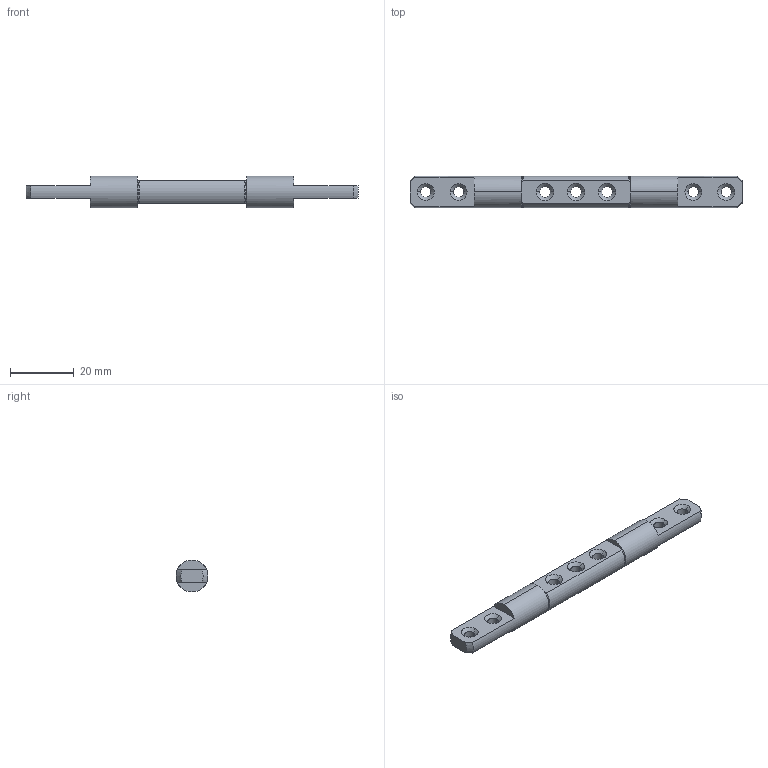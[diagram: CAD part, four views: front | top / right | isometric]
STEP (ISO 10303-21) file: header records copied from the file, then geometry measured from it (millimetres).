
FILE_DESCRIPTION (( 'STEP AP203' ), '1' );
FILE_NAME ('XG11-127.STEP', '2025-04-01T08:57:38', ( '微软用户' ), ( '微软中国' ), 'SwSTEP 2.0', 'SolidWorks 2024', '' );
FILE_SCHEMA (( 'CONFIG_CONTROL_DESIGN' ));
Length unit declared in the file: millimetre
Products named in the file (1): XG11-127
Bounding box: 103.8 x 9.97 x 10 mm (x, y, z)
Volume: 5617.9 mm3; surface area: 3379.9 mm2
Topology: 1 solids, 1 shells, 76 faces, 186 edges, 112 vertices
Faces by surface type: cone 32, cylinder 20, plane 16, torus 8
Entity records: 2427 total; most frequent: CARTESIAN_POINT 511, DIRECTION 408, ORIENTED_EDGE 372, EDGE_CURVE 186, AXIS2_PLACEMENT_3D 169, VERTEX_POINT 112, CIRCLE 92, EDGE_LOOP 90
